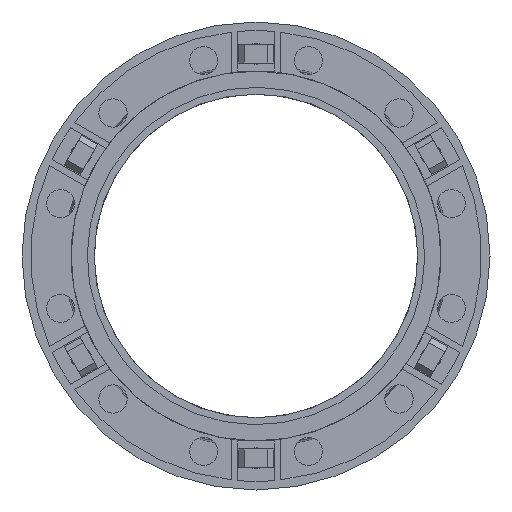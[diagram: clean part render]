
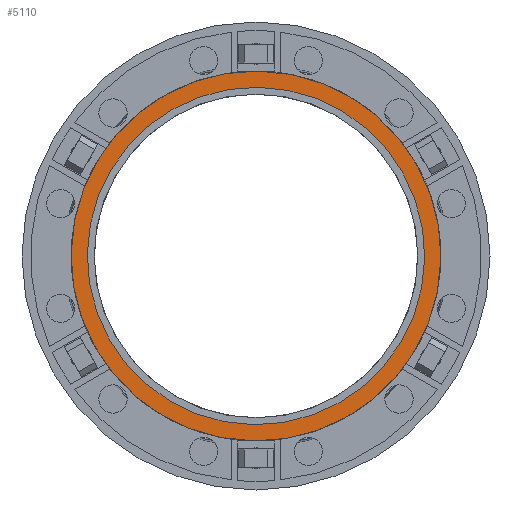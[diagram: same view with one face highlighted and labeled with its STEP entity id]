
A CAD part, front view. The second image highlights one B-rep face of the part: STEP entity #5110.
In plain terms, the highlighted planar face has unit normal (0, -1, 0).
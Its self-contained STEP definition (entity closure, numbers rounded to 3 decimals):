
#732 = FACE_OUTER_BOUND ( 'NONE', #13324, .T. ) ;
#1007 = CARTESIAN_POINT ( 'NONE',  ( 0., -3., 0. ) ) ;
#1054 = FACE_BOUND ( 'NONE', #7410, .T. ) ;
#1136 = AXIS2_PLACEMENT_3D ( 'NONE', #12133, #3809, #6842 ) ;
#2457 = CARTESIAN_POINT ( 'NONE',  ( 0., -3., 0. ) ) ;
#3397 = VERTEX_POINT ( 'NONE', #7009 ) ;
#3564 = VERTEX_POINT ( 'NONE', #4195 ) ;
#3809 = DIRECTION ( 'NONE',  ( 0., 1., 0. ) ) ;
#4195 = CARTESIAN_POINT ( 'NONE',  ( 27.644, -3., 143.359 ) ) ;
#5110 = ADVANCED_FACE ( 'Defeatured_0_339', ( #1054, #732 ), #20380, .F. ) ;
#5949 = CIRCLE ( 'NONE', #1136, 160. ) ;
#6605 = ORIENTED_EDGE ( 'NONE', *, *, #19084, .T. ) ;
#6842 = DIRECTION ( 'NONE',  ( 0.189, 0., 0.982 ) ) ;
#7009 = CARTESIAN_POINT ( 'NONE',  ( -30.294, -3., -157.106 ) ) ;
#7022 = ORIENTED_EDGE ( 'NONE', *, *, #11536, .T. ) ;
#7041 = CARTESIAN_POINT ( 'NONE',  ( 0., -3., 0. ) ) ;
#7202 = DIRECTION ( 'NONE',  ( 0., 1., 0. ) ) ;
#7410 = EDGE_LOOP ( 'NONE', ( #6605, #7022 ) ) ;
#9486 = AXIS2_PLACEMENT_3D ( 'NONE', #7041, #13635, #20223 ) ;
#9659 = CARTESIAN_POINT ( 'NONE',  ( -27.644, -3., -143.359 ) ) ;
#11536 = EDGE_CURVE ( 'Defeatured_0_339+Defeatured_0_507+Defeatured_0_507+Defeatured_0_507', #3564, #14345, #21325, .T. ) ;
#12048 = AXIS2_PLACEMENT_3D ( 'NONE', #1007, #16493, #14878 ) ;
#12133 = CARTESIAN_POINT ( 'NONE',  ( 0., -3., 0. ) ) ;
#12204 = AXIS2_PLACEMENT_3D ( 'NONE', #2457, #7202, #15407 ) ;
#12238 = CIRCLE ( 'NONE', #9486, 146. ) ;
#12395 = CIRCLE ( 'NONE', #12048, 160. ) ;
#12698 = EDGE_CURVE ( 'Defeatured_0_340+Defeatured_0_339+Defeatured_0_339+Defeatured_0_339', #3397, #18344, #12395, .T. ) ;
#13324 = EDGE_LOOP ( 'NONE', ( #15366, #14209 ) ) ;
#13635 = DIRECTION ( 'NONE',  ( 0., 1., 0. ) ) ;
#14209 = ORIENTED_EDGE ( 'NONE', *, *, #17289, .F. ) ;
#14345 = VERTEX_POINT ( 'NONE', #9659 ) ;
#14878 = DIRECTION ( 'NONE',  ( 0.189, 0., 0.982 ) ) ;
#15366 = ORIENTED_EDGE ( 'NONE', *, *, #12698, .F. ) ;
#15407 = DIRECTION ( 'NONE',  ( 0.189, 0., 0.982 ) ) ;
#16493 = DIRECTION ( 'NONE',  ( 0., 1., 0. ) ) ;
#17289 = EDGE_CURVE ( 'Defeatured_0_340+Defeatured_0_339+Defeatured_0_339+Defeatured_0_339', #18344, #3397, #5949, .T. ) ;
#18006 = DIRECTION ( 'NONE',  ( 0., 1., 0. ) ) ;
#18344 = VERTEX_POINT ( 'NONE', #18991 ) ;
#18541 = AXIS2_PLACEMENT_3D ( 'NONE', #21268, #18006, #21055 ) ;
#18991 = CARTESIAN_POINT ( 'NONE',  ( 30.294, -3., 157.106 ) ) ;
#19084 = EDGE_CURVE ( 'Defeatured_0_339+Defeatured_0_507+Defeatured_0_507+Defeatured_0_507', #14345, #3564, #12238, .T. ) ;
#20223 = DIRECTION ( 'NONE',  ( 0.189, 0., 0.982 ) ) ;
#20380 = PLANE ( 'NONE',  #12204 ) ;
#21055 = DIRECTION ( 'NONE',  ( 0.189, 0., 0.982 ) ) ;
#21268 = CARTESIAN_POINT ( 'NONE',  ( 0., -3., 0. ) ) ;
#21325 = CIRCLE ( 'NONE', #18541, 146. ) ;
